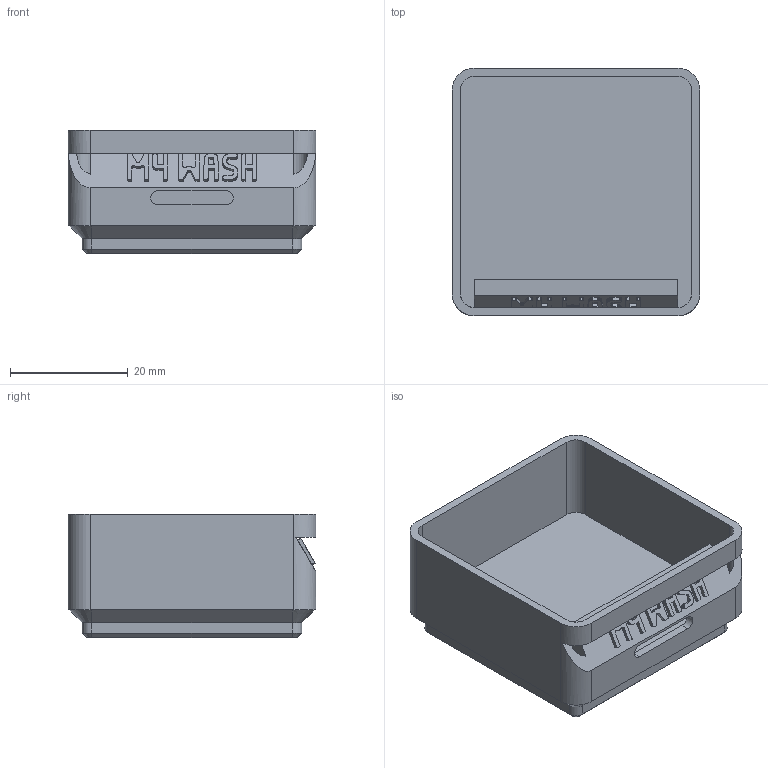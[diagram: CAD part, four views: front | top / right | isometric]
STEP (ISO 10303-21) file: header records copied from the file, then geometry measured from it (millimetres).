
FILE_DESCRIPTION(('Open CASCADE Model'),'2;1');
FILE_NAME('Open CASCADE Shape Model','2026-11-03T17:13:33',('Author'),( 'Open CASCADE'),'Open CASCADE STEP processor 8.0','build123d', 'Unknown');
FILE_SCHEMA(('AUTOMOTIVE_DESIGN { 1 0 10303 214 1 1 1 1 }'));
Length unit declared in the file: millimetre
Products named in the file (1): COMPOUND
Bounding box: 42 x 42 x 21 mm (x, y, z)
Volume: 12854 mm3; surface area: 9304 mm2
Topology: 1 solids, 1 shells, 635 faces, 1860 edges, 1234 vertices
Faces by surface type: plane 613, cylinder 14, cone 8
Entity records: 43632 total; most frequent: CARTESIAN_POINT 8778, DIRECTION 5636, LINE 4248, VECTOR 4248, ORIENTED_EDGE 3720, PCURVE 3720, DEFINITIONAL_REPRESENTATION 3720, EDGE_CURVE 1860
